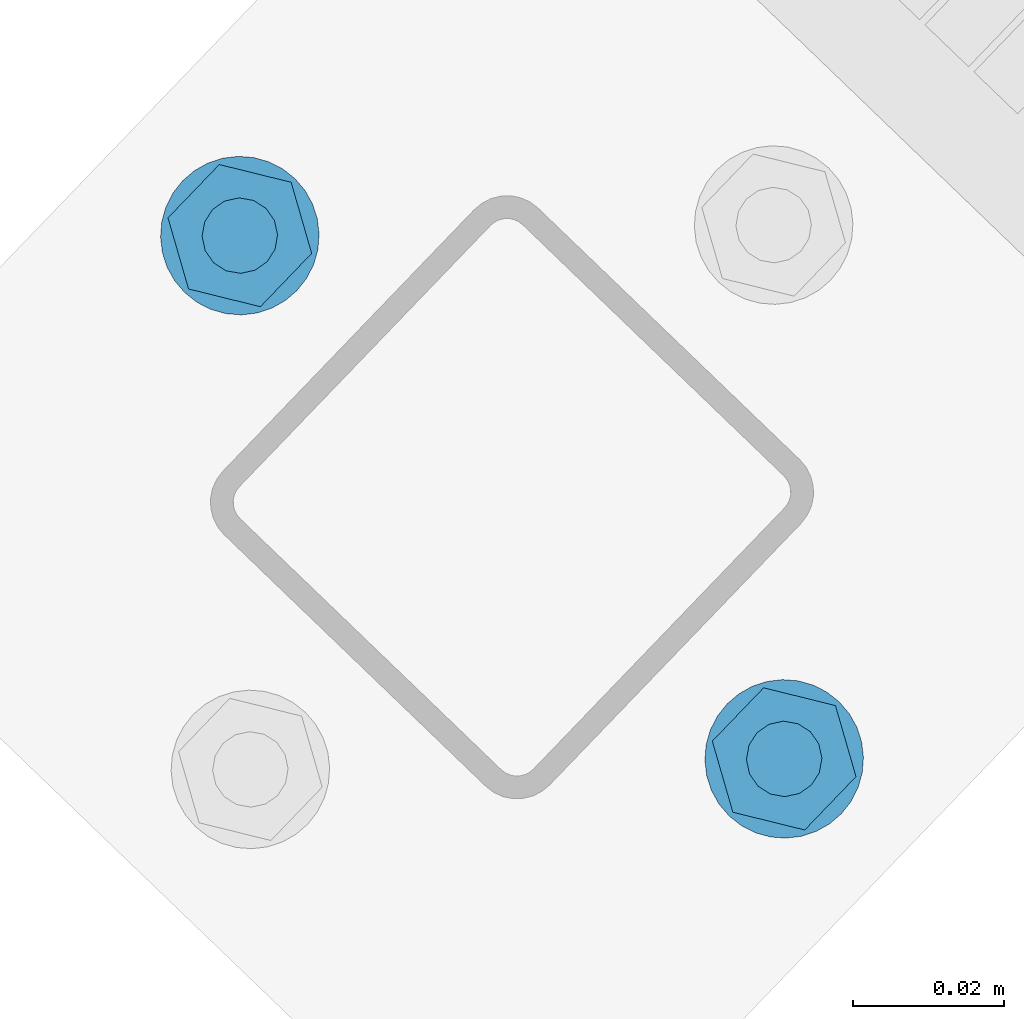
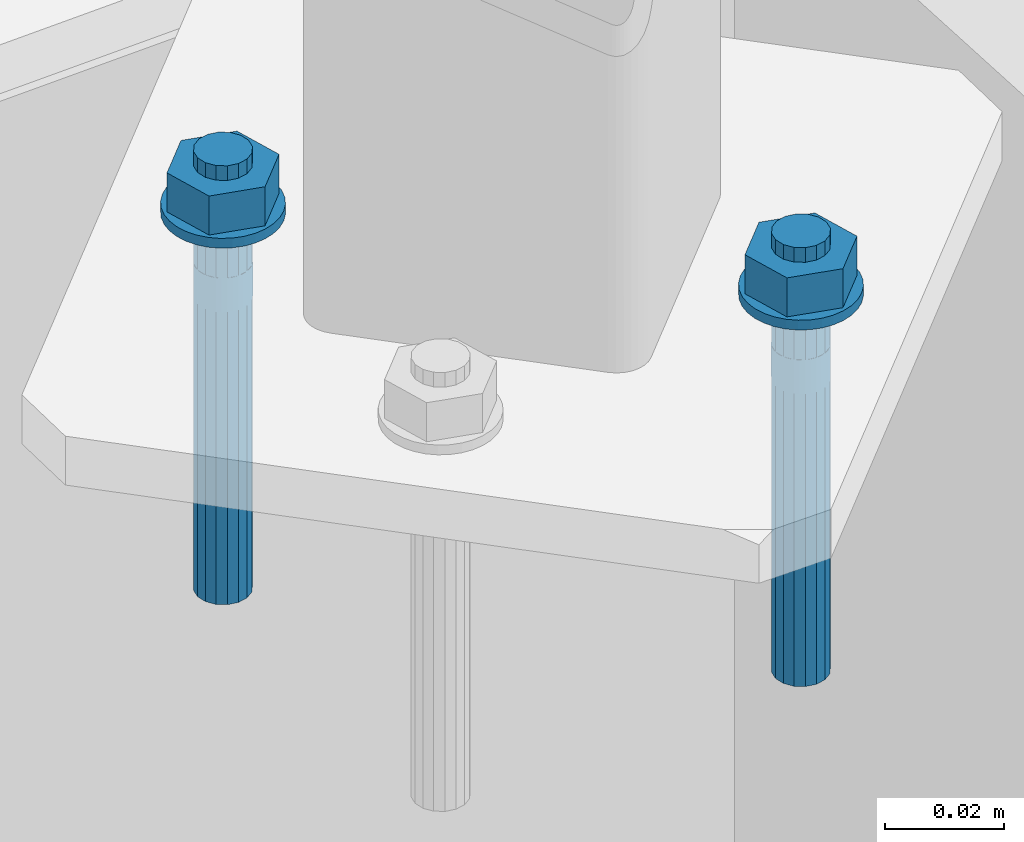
# One storey, part 189 of 288: 2 mechanical fasteners.
"""IFC2X3 building model written with IfcOpenShell, lengths in millimetres."""

from ifc_helpers import new_model, entity, si_unit, converted_unit, origin_with_axes, place, context, project, spatial, faceted_brep, element, save


model = new_model("IFC2X3")

# Units and contexts
model_context = context("Model", 3, precision=1e-09, world=origin_with_axes())
ifc_project = project(units=[si_unit("LENGTHUNIT", "METRE", prefix="MILLI"), si_unit("AREAUNIT", "SQUARE_METRE"), si_unit("VOLUMEUNIT", "CUBIC_METRE"), converted_unit("PLANEANGLEUNIT", "DEGREE", entity("IfcPlaneAngleMeasure", 0.01745329), si_unit("PLANEANGLEUNIT", "RADIAN"), dimensions=[0, 0, 0, 0, 0, 0, 0])], contexts=[model_context])

# Site, building, storey
site_placement = place(None, origin_with_axes())
site = spatial("IfcSite", under=ifc_project, at=site_placement, Name="Remont ?wietlik?w nad MC w NCPP w Opolu", CompositionType="ELEMENT")
building_placement = place(site_placement, origin_with_axes())
building = spatial("IfcBuilding", under=site, at=building_placement, Name="Konstrukcja 1", CompositionType="ELEMENT")
storey_placement = place(building_placement, origin_with_axes())
storey = spatial("IfcBuildingStorey", under=building, at=storey_placement, Name="Default Storey", CompositionType="ELEMENT", Elevation=0.0)

# Mechanical fasteners
mechanical_fastener_1_placement = place(None, origin_with_axes())
element("IfcMechanicalFastener", 1, at=mechanical_fastener_1_placement, inside=storey, ObjectType="Anchor_Bolt", NominalDiameter=10.0, NominalLength=90.0, context=model_context, shape_type="Brep", body=[
    faceted_brep([(-79.531488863, -139.726748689, 22.001000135), (-79.531488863, -139.726748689, 20.001000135), (-80.805663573, -141.343326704, 20.001000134), (-80.805663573, -141.343326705, 22.001000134), (-81.739976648, -143.177421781, 20.001000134), (-81.739976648, -143.177421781, 22.001000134), (-82.29852296, -145.158550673, 20.001000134), (-82.29852296, -145.158550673, 22.001000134), (-82.459837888, -147.210579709, 20.001000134), (-82.459837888, -147.210579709, 22.001000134), (-82.217722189, -149.254650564, 20.001000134), (-82.217722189, -149.254650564, 22.001000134), (-81.581480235, -151.212210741, 20.001000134), (-81.581480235, -151.212210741, 22.001000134), (-80.575562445, -153.0080323, 20.001000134), (-80.575562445, -153.0080323, 22.001000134), (-79.238625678, -154.573102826, 20.001000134), (-79.238625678, -154.573102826, 22.001000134), (-77.622047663, -155.847277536, 20.001000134), (-77.622047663, -155.847277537, 22.001000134), (-75.787952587, -156.781590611, 20.001000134), (-75.787952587, -156.781590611, 22.001000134), (-73.806823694, -157.340136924, 20.001000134), (-73.806823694, -157.340136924, 22.001000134), (-71.754794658, -157.501451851, 20.001000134), (-71.754794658, -157.501451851, 22.001000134), (-69.710723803, -157.259336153, 20.001000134), (-69.710723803, -157.259336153, 22.001000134), (-67.753163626, -156.623094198, 20.001000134), (-67.753163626, -156.623094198, 22.001000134), (-65.957342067, -155.617176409, 20.001000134), (-65.957342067, -155.617176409, 22.001000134), (-64.392271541, -154.280239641, 20.001000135), (-64.392271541, -154.280239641, 22.001000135), (-63.118096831, -152.663661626, 20.001000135), (-63.118096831, -152.663661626, 22.001000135), (-62.183783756, -150.82956655, 20.001000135), (-62.183783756, -150.82956655, 22.001000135), (-61.625237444, -148.848437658, 20.001000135), (-61.625237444, -148.848437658, 22.001000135), (-61.463922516, -146.796408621, 20.001000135), (-61.463922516, -146.796408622, 22.001000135), (-61.706038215, -144.752337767, 20.001000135), (-61.706038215, -144.752337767, 22.001000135), (-62.342280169, -142.79477759, 20.001000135), (-62.34228017, -142.79477759, 22.001000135), (-63.348197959, -140.998956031, 20.001000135), (-63.348197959, -140.998956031, 22.001000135), (-64.685134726, -139.433885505, 20.001000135), (-64.685134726, -139.433885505, 22.001000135), (-66.301712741, -138.159710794, 20.001000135), (-66.301712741, -138.159710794, 22.001000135), (-68.135807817, -137.225397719, 20.001000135), (-68.135807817, -137.225397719, 22.001000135), (-70.11693671, -136.666851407, 20.001000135), (-70.11693671, -136.666851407, 22.001000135), (-72.168965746, -136.505536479, 20.001000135), (-72.168965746, -136.505536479, 22.001000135), (-74.213036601, -136.747652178, 20.001000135), (-74.213036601, -136.747652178, 22.001000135), (-76.170596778, -137.383894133, 20.001000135), (-76.170596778, -137.383894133, 22.001000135), (-77.966418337, -138.389811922, 20.001000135), (-77.966418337, -138.389811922, 22.001000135)], [[[0, 1, 2, 3]], [[3, 2, 4, 5]], [[5, 4, 6, 7]], [[7, 6, 8, 9]], [[9, 8, 10, 11]], [[11, 10, 12, 13]], [[13, 12, 14, 15]], [[15, 14, 16, 17]], [[17, 16, 18, 19]], [[19, 18, 20, 21]], [[21, 20, 22, 23]], [[23, 22, 24, 25]], [[25, 24, 26, 27]], [[27, 26, 28, 29]], [[29, 28, 30, 31]], [[31, 30, 32, 33]], [[33, 32, 34, 35]], [[35, 34, 36, 37]], [[37, 36, 38, 39]], [[39, 38, 40, 41]], [[41, 40, 42, 43]], [[43, 42, 44, 45]], [[45, 44, 46, 47]], [[47, 46, 48, 49]], [[49, 48, 50, 51]], [[51, 50, 52, 53]], [[53, 52, 54, 55]], [[55, 54, 56, 57]], [[57, 56, 58, 59]], [[59, 58, 60, 61]], [[61, 60, 62, 63]], [[63, 62, 1, 0]], [[0, 3, 5, 7, 9, 11, 13, 15, 17, 19, 21, 23, 25, 27, 29, 31, 33, 35, 37, 39, 41, 43, 45, 47, 49, 51, 53, 55, 57, 59, 61, 63]], [[1, 62, 60, 58, 56, 54, 52, 50, 48, 46, 44, 42, 40, 38, 36, 34, 32, 30, 28, 26, 24, 22, 20, 18, 16, 14, 12, 10, 8, 6, 4, 2]]]),
    faceted_brep([(-69.23925292, -156.41770155, 22.001000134), (-69.239252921, -156.417701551, 30.001000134), (-78.753509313, -154.068462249, 30.001000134), (-78.753509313, -154.068462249, 22.001000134), (-81.476136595, -144.654254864, 30.001000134), (-81.476136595, -144.654254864, 22.001000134), (-74.684507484, -137.589286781, 30.001000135), (-74.684507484, -137.589286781, 22.001000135), (-65.170251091, -139.938526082, 30.001000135), (-65.170251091, -139.938526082, 22.001000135), (-62.44762381, -149.352733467, 30.001000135), (-62.447623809, -149.352733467, 22.001000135)], [[[0, 1, 2, 3]], [[3, 2, 4, 5]], [[5, 4, 6, 7]], [[7, 6, 8, 9]], [[9, 8, 10, 11]], [[11, 10, 1, 0]], [[4, 2, 1, 10, 8, 6]], [[0, 3, 5, 7, 9, 11]]]),
    faceted_brep([(-75.566455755, -143.538377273, 33.001000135), (-75.566455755, -143.538377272, 30.001000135), (-76.618116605, -145.181554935, 30.001000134), (-76.618116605, -145.181554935, 33.001000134), (-76.960907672, -147.10210633, 30.001000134), (-76.960907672, -147.10210633, 33.001000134), (-76.542642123, -149.007644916, 30.001000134), (-76.542642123, -149.007644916, 33.001000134), (-75.426997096, -150.608069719, 30.001000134), (-75.426997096, -150.608069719, 33.001000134), (-73.783819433, -151.659730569, 30.001000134), (-73.783819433, -151.659730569, 33.001000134), (-71.863268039, -152.002521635, 30.001000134), (-71.863268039, -152.002521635, 33.001000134), (-69.957729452, -151.584256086, 30.001000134), (-69.957729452, -151.584256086, 33.001000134), (-68.35730465, -150.468611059, 30.001000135), (-68.35730465, -150.468611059, 33.001000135), (-67.3056438, -148.825433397, 30.001000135), (-67.3056438, -148.825433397, 33.001000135), (-66.962852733, -146.904882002, 30.001000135), (-66.962852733, -146.904882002, 33.001000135), (-67.381118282, -144.999343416, 30.001000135), (-67.381118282, -144.999343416, 33.001000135), (-68.496763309, -143.398918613, 30.001000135), (-68.496763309, -143.398918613, 33.001000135), (-70.139940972, -142.347257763, 30.001000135), (-70.139940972, -142.347257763, 33.001000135), (-72.060492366, -142.004466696, 30.001000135), (-72.060492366, -142.004466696, 33.001000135), (-73.966030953, -142.422732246, 30.001000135), (-73.966030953, -142.422732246, 33.001000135)], [[[0, 1, 2, 3]], [[3, 2, 4, 5]], [[5, 4, 6, 7]], [[7, 6, 8, 9]], [[9, 8, 10, 11]], [[11, 10, 12, 13]], [[13, 12, 14, 15]], [[15, 14, 16, 17]], [[17, 16, 18, 19]], [[19, 18, 20, 21]], [[21, 20, 22, 23]], [[23, 22, 24, 25]], [[25, 24, 26, 27]], [[27, 26, 28, 29]], [[29, 28, 30, 31]], [[31, 30, 1, 0]], [[0, 3, 5, 7, 9, 11, 13, 15, 17, 19, 21, 23, 25, 27, 29, 31]], [[1, 30, 28, 26, 24, 22, 20, 18, 16, 14, 12, 10, 8, 6, 4, 2]]]),
    faceted_brep([(-75.566455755, -143.538377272, 20.00100039), (-75.566455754, -143.538377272, 10.001000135), (-76.618116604, -145.181554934, 10.001000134), (-76.618116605, -145.181554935, 20.00100039), (-76.960907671, -147.102106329, 10.001000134), (-76.960907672, -147.102106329, 20.00100039), (-76.542642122, -149.007644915, 10.001000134), (-76.542642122, -149.007644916, 20.00100039), (-75.426997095, -150.608069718, 10.001000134), (-75.426997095, -150.608069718, 20.00100039), (-73.783819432, -151.659730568, 10.001000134), (-73.783819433, -151.659730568, 20.00100039), (-71.863268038, -152.002521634, 10.001000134), (-71.863268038, -152.002521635, 20.00100039), (-69.957729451, -151.584256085, 10.001000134), (-69.957729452, -151.584256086, 20.00100039), (-68.357304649, -150.468611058, 10.001000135), (-68.357304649, -150.468611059, 20.00100039), (-67.305643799, -148.825433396, 10.001000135), (-67.305643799, -148.825433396, 20.00100039), (-66.962852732, -146.904882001, 10.001000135), (-66.962852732, -146.904882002, 20.001000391), (-67.381118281, -144.999343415, 10.001000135), (-67.381118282, -144.999343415, 20.001000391), (-68.496763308, -143.398918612, 10.001000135), (-68.496763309, -143.398918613, 20.001000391), (-70.139940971, -142.347257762, 10.001000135), (-70.139940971, -142.347257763, 20.001000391), (-72.060492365, -142.004466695, 10.001000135), (-72.060492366, -142.004466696, 20.001000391), (-73.966030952, -142.422732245, 10.001000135), (-73.966030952, -142.422732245, 20.00100039)], [[[0, 1, 2, 3]], [[3, 2, 4, 5]], [[5, 4, 6, 7]], [[7, 6, 8, 9]], [[9, 8, 10, 11]], [[11, 10, 12, 13]], [[13, 12, 14, 15]], [[15, 14, 16, 17]], [[17, 16, 18, 19]], [[19, 18, 20, 21]], [[21, 20, 22, 23]], [[23, 22, 24, 25]], [[25, 24, 26, 27]], [[27, 26, 28, 29]], [[29, 28, 30, 31]], [[31, 30, 1, 0]], [[0, 3, 5, 7, 9, 11, 13, 15, 17, 19, 21, 23, 25, 27, 29, 31]], [[1, 30, 28, 26, 24, 22, 20, 18, 16, 14, 12, 10, 8, 6, 4, 2]]]),
    faceted_brep([(-75.566455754, -143.538377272, 10.000999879), (-75.566455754, -143.538377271, 3.001000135), (-76.173205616, -144.308176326, 3.001000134), (-76.173205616, -144.308176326, 10.000999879), (-76.618116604, -145.181554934, 3.001000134), (-76.618116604, -145.181554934, 10.000999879), (-76.884091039, -146.124949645, 3.001000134), (-76.884091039, -146.124949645, 10.000999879), (-76.960907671, -147.102106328, 3.001000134), (-76.960907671, -147.102106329, 10.000999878), (-76.845614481, -148.075473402, 3.001000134), (-76.845614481, -148.075473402, 10.000999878), (-76.542642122, -149.007644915, 3.001000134), (-76.542642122, -149.007644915, 10.000999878), (-76.06363365, -149.862798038, 3.001000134), (-76.063633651, -149.862798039, 10.000999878), (-75.426997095, -150.608069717, 3.001000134), (-75.426997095, -150.608069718, 10.000999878), (-74.65719804, -151.214819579, 3.001000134), (-74.65719804, -151.21481958, 10.000999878), (-73.783819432, -151.659730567, 3.001000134), (-73.783819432, -151.659730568, 10.000999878), (-72.840424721, -151.925705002, 3.001000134), (-72.840424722, -151.925705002, 10.000999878), (-71.863268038, -152.002521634, 3.001000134), (-71.863268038, -152.002521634, 10.000999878), (-70.889900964, -151.887228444, 3.001000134), (-70.889900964, -151.887228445, 10.000999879), (-69.957729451, -151.584256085, 3.001000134), (-69.957729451, -151.584256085, 10.000999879), (-69.102576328, -151.105247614, 3.001000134), (-69.102576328, -151.105247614, 10.000999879), (-68.357304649, -150.468611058, 3.001000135), (-68.357304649, -150.468611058, 10.000999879), (-67.750554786, -149.698812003, 3.001000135), (-67.750554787, -149.698812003, 10.000999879), (-67.305643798, -148.825433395, 3.001000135), (-67.305643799, -148.825433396, 10.000999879), (-67.039669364, -147.882038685, 3.001000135), (-67.039669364, -147.882038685, 10.000999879), (-66.962852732, -146.904882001, 3.001000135), (-66.962852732, -146.904882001, 10.000999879), (-67.078145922, -145.931514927, 3.001000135), (-67.078145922, -145.931514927, 10.000999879), (-67.381118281, -144.999343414, 3.001000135), (-67.381118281, -144.999343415, 10.000999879), (-67.860126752, -144.144190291, 3.001000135), (-67.860126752, -144.144190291, 10.000999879), (-68.496763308, -143.398918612, 3.001000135), (-68.496763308, -143.398918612, 10.000999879), (-69.266562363, -142.79216875, 3.001000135), (-69.266562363, -142.79216875, 10.000999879), (-70.139940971, -142.347257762, 3.001000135), (-70.139940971, -142.347257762, 10.000999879), (-71.083335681, -142.081283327, 3.001000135), (-71.083335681, -142.081283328, 10.000999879), (-72.060492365, -142.004466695, 3.001000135), (-72.060492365, -142.004466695, 10.000999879), (-73.033859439, -142.119759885, 3.001000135), (-73.033859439, -142.119759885, 10.000999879), (-73.966030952, -142.422732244, 3.001000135), (-73.966030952, -142.422732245, 10.000999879), (-74.821184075, -142.901740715, 3.001000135), (-74.821184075, -142.901740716, 10.000999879)], [[[0, 1, 2, 3]], [[3, 2, 4, 5]], [[5, 4, 6, 7]], [[7, 6, 8, 9]], [[9, 8, 10, 11]], [[11, 10, 12, 13]], [[13, 12, 14, 15]], [[15, 14, 16, 17]], [[17, 16, 18, 19]], [[19, 18, 20, 21]], [[21, 20, 22, 23]], [[23, 22, 24, 25]], [[25, 24, 26, 27]], [[27, 26, 28, 29]], [[29, 28, 30, 31]], [[31, 30, 32, 33]], [[33, 32, 34, 35]], [[35, 34, 36, 37]], [[37, 36, 38, 39]], [[39, 38, 40, 41]], [[41, 40, 42, 43]], [[43, 42, 44, 45]], [[45, 44, 46, 47]], [[47, 46, 48, 49]], [[49, 48, 50, 51]], [[51, 50, 52, 53]], [[53, 52, 54, 55]], [[55, 54, 56, 57]], [[57, 56, 58, 59]], [[59, 58, 60, 61]], [[61, 60, 62, 63]], [[63, 62, 1, 0]], [[0, 3, 5, 7, 9, 11, 13, 15, 17, 19, 21, 23, 25, 27, 29, 31, 33, 35, 37, 39, 41, 43, 45, 47, 49, 51, 53, 55, 57, 59, 61, 63]], [[1, 62, 60, 58, 56, 54, 52, 50, 48, 46, 44, 42, 40, 38, 36, 34, 32, 30, 28, 26, 24, 22, 20, 18, 16, 14, 12, 10, 8, 6, 4, 2]]]),
    faceted_brep([(-75.566455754, -143.538377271, 3.001000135), (-75.566455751, -143.538377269, -56.998999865), (-76.618116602, -145.181554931, -56.998999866), (-76.618116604, -145.181554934, 3.001000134), (-76.960907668, -147.102106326, -56.998999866), (-76.960907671, -147.102106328, 3.001000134), (-76.542642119, -149.007644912, -56.998999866), (-76.542642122, -149.007644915, 3.001000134), (-75.426997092, -150.608069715, -56.998999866), (-75.426997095, -150.608069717, 3.001000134), (-73.783819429, -151.659730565, -56.998999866), (-73.783819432, -151.659730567, 3.001000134), (-71.863268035, -152.002521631, -56.998999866), (-71.863268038, -152.002521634, 3.001000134), (-69.957729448, -151.584256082, -56.998999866), (-69.957729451, -151.584256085, 3.001000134), (-68.357304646, -150.468611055, -56.998999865), (-68.357304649, -150.468611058, 3.001000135), (-67.305643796, -148.825433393, -56.998999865), (-67.305643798, -148.825433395, 3.001000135), (-66.962852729, -146.904881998, -56.998999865), (-66.962852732, -146.904882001, 3.001000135), (-67.381118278, -144.999343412, -56.998999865), (-67.381118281, -144.999343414, 3.001000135), (-68.496763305, -143.398918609, -56.998999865), (-68.496763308, -143.398918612, 3.001000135), (-70.139940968, -142.347257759, -56.998999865), (-70.139940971, -142.347257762, 3.001000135), (-72.060492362, -142.004466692, -56.998999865), (-72.060492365, -142.004466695, 3.001000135), (-73.966030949, -142.422732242, -56.998999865), (-73.966030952, -142.422732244, 3.001000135)], [[[0, 1, 2, 3]], [[3, 2, 4, 5]], [[5, 4, 6, 7]], [[7, 6, 8, 9]], [[9, 8, 10, 11]], [[11, 10, 12, 13]], [[13, 12, 14, 15]], [[15, 14, 16, 17]], [[17, 16, 18, 19]], [[19, 18, 20, 21]], [[21, 20, 22, 23]], [[23, 22, 24, 25]], [[25, 24, 26, 27]], [[27, 26, 28, 29]], [[29, 28, 30, 31]], [[31, 30, 1, 0]], [[0, 3, 5, 7, 9, 11, 13, 15, 17, 19, 21, 23, 25, 27, 29, 31]], [[1, 30, 28, 26, 24, 22, 20, 18, 16, 14, 12, 10, 8, 6, 4, 2]]]),
])
mechanical_fastener_2_placement = place(None, origin_with_axes())
element("IfcMechanicalFastener", 2, at=mechanical_fastener_2_placement, inside=storey, ObjectType="Anchor_Bolt", NominalDiameter=10.0, NominalLength=90.0, context=model_context, shape_type="Brep", body=[
    faceted_brep([(-151.622999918, -70.424410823, 22.001000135), (-151.622999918, -70.424410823, 20.001000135), (-152.897174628, -72.040988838, 20.001000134), (-152.897174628, -72.040988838, 22.001000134), (-153.831487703, -73.875083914, 20.001000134), (-153.831487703, -73.875083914, 22.001000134), (-154.390034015, -75.856212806, 20.001000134), (-154.390034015, -75.856212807, 22.001000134), (-154.551348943, -77.908241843, 20.001000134), (-154.551348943, -77.908241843, 22.001000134), (-154.309233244, -79.952312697, 20.001000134), (-154.309233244, -79.952312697, 22.001000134), (-153.67299129, -81.909872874, 20.001000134), (-153.67299129, -81.909872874, 22.001000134), (-152.6670735, -83.705694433, 20.001000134), (-152.6670735, -83.705694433, 22.001000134), (-151.330136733, -85.270764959, 20.001000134), (-151.330136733, -85.27076496, 22.001000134), (-149.713558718, -86.54493967, 20.001000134), (-149.713558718, -86.54493967, 22.001000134), (-147.879463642, -87.479252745, 20.001000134), (-147.879463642, -87.479252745, 22.001000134), (-145.898334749, -88.037799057, 20.001000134), (-145.898334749, -88.037799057, 22.001000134), (-143.846305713, -88.199113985, 20.001000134), (-143.846305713, -88.199113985, 22.001000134), (-141.802234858, -87.956998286, 20.001000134), (-141.802234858, -87.956998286, 22.001000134), (-139.844674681, -87.320756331, 20.001000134), (-139.844674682, -87.320756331, 22.001000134), (-138.048853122, -86.314838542, 20.001000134), (-138.048853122, -86.314838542, 22.001000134), (-136.483782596, -84.977901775, 20.001000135), (-136.483782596, -84.977901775, 22.001000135), (-135.209607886, -83.36132376, 20.001000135), (-135.209607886, -83.36132376, 22.001000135), (-134.275294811, -81.527228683, 20.001000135), (-134.275294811, -81.527228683, 22.001000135), (-133.716748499, -79.546099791, 20.001000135), (-133.716748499, -79.546099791, 22.001000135), (-133.555433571, -77.494070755, 20.001000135), (-133.555433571, -77.494070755, 22.001000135), (-133.79754927, -75.4499999, 20.001000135), (-133.79754927, -75.4499999, 22.001000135), (-134.433791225, -73.492439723, 20.001000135), (-134.433791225, -73.492439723, 22.001000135), (-135.439709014, -71.696618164, 20.001000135), (-135.439709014, -71.696618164, 22.001000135), (-136.776645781, -70.131547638, 20.001000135), (-136.776645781, -70.131547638, 22.001000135), (-138.393223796, -68.857372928, 20.001000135), (-138.393223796, -68.857372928, 22.001000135), (-140.227318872, -67.923059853, 20.001000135), (-140.227318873, -67.923059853, 22.001000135), (-142.208447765, -67.36451354, 20.001000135), (-142.208447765, -67.364513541, 22.001000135), (-144.260476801, -67.203198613, 20.001000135), (-144.260476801, -67.203198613, 22.001000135), (-146.304547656, -67.445314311, 20.001000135), (-146.304547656, -67.445314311, 22.001000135), (-148.262107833, -68.081556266, 20.001000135), (-148.262107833, -68.081556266, 22.001000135), (-150.057929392, -69.087474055, 20.001000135), (-150.057929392, -69.087474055, 22.001000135)], [[[0, 1, 2, 3]], [[3, 2, 4, 5]], [[5, 4, 6, 7]], [[7, 6, 8, 9]], [[9, 8, 10, 11]], [[11, 10, 12, 13]], [[13, 12, 14, 15]], [[15, 14, 16, 17]], [[17, 16, 18, 19]], [[19, 18, 20, 21]], [[21, 20, 22, 23]], [[23, 22, 24, 25]], [[25, 24, 26, 27]], [[27, 26, 28, 29]], [[29, 28, 30, 31]], [[31, 30, 32, 33]], [[33, 32, 34, 35]], [[35, 34, 36, 37]], [[37, 36, 38, 39]], [[39, 38, 40, 41]], [[41, 40, 42, 43]], [[43, 42, 44, 45]], [[45, 44, 46, 47]], [[47, 46, 48, 49]], [[49, 48, 50, 51]], [[51, 50, 52, 53]], [[53, 52, 54, 55]], [[55, 54, 56, 57]], [[57, 56, 58, 59]], [[59, 58, 60, 61]], [[61, 60, 62, 63]], [[63, 62, 1, 0]], [[0, 3, 5, 7, 9, 11, 13, 15, 17, 19, 21, 23, 25, 27, 29, 31, 33, 35, 37, 39, 41, 43, 45, 47, 49, 51, 53, 55, 57, 59, 61, 63]], [[1, 62, 60, 58, 56, 54, 52, 50, 48, 46, 44, 42, 40, 38, 36, 34, 32, 30, 28, 26, 24, 22, 20, 18, 16, 14, 12, 10, 8, 6, 4, 2]]]),
    faceted_brep([(-141.330763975, -87.115363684, 22.001000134), (-141.330763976, -87.115363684, 30.001000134), (-150.845020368, -84.766124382, 30.001000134), (-150.845020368, -84.766124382, 22.001000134), (-153.56764765, -75.351916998, 30.001000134), (-153.56764765, -75.351916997, 22.001000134), (-146.776018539, -68.286948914, 30.001000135), (-146.776018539, -68.286948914, 22.001000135), (-137.261762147, -70.636188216, 30.001000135), (-137.261762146, -70.636188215, 22.001000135), (-134.539134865, -80.050395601, 30.001000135), (-134.539134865, -80.0503956, 22.001000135)], [[[0, 1, 2, 3]], [[3, 2, 4, 5]], [[5, 4, 6, 7]], [[7, 6, 8, 9]], [[9, 8, 10, 11]], [[11, 10, 1, 0]], [[4, 2, 1, 10, 8, 6]], [[0, 3, 5, 7, 9, 11]]]),
    faceted_brep([(-147.65796681, -74.236039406, 33.001000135), (-147.65796681, -74.236039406, 30.001000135), (-148.70962766, -75.879217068, 30.001000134), (-148.709627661, -75.879217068, 33.001000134), (-149.052418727, -77.799768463, 30.001000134), (-149.052418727, -77.799768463, 33.001000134), (-148.634153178, -79.705307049, 30.001000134), (-148.634153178, -79.70530705, 33.001000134), (-147.518508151, -81.305731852, 30.001000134), (-147.518508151, -81.305731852, 33.001000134), (-145.875330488, -82.357392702, 30.001000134), (-145.875330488, -82.357392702, 33.001000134), (-143.954779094, -82.700183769, 30.001000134), (-143.954779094, -82.700183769, 33.001000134), (-142.049240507, -82.281918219, 30.001000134), (-142.049240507, -82.281918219, 33.001000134), (-140.448815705, -81.166273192, 30.001000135), (-140.448815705, -81.166273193, 33.001000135), (-139.397154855, -79.52309553, 30.001000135), (-139.397154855, -79.52309553, 33.001000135), (-139.054363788, -77.602544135, 30.001000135), (-139.054363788, -77.602544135, 33.001000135), (-139.472629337, -75.697005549, 30.001000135), (-139.472629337, -75.697005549, 33.001000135), (-140.588274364, -74.096580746, 30.001000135), (-140.588274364, -74.096580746, 33.001000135), (-142.231452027, -73.044919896, 30.001000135), (-142.231452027, -73.044919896, 33.001000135), (-144.152003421, -72.70212883, 30.001000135), (-144.152003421, -72.70212883, 33.001000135), (-146.057542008, -73.120394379, 30.001000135), (-146.057542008, -73.120394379, 33.001000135)], [[[0, 1, 2, 3]], [[3, 2, 4, 5]], [[5, 4, 6, 7]], [[7, 6, 8, 9]], [[9, 8, 10, 11]], [[11, 10, 12, 13]], [[13, 12, 14, 15]], [[15, 14, 16, 17]], [[17, 16, 18, 19]], [[19, 18, 20, 21]], [[21, 20, 22, 23]], [[23, 22, 24, 25]], [[25, 24, 26, 27]], [[27, 26, 28, 29]], [[29, 28, 30, 31]], [[31, 30, 1, 0]], [[0, 3, 5, 7, 9, 11, 13, 15, 17, 19, 21, 23, 25, 27, 29, 31]], [[1, 30, 28, 26, 24, 22, 20, 18, 16, 14, 12, 10, 8, 6, 4, 2]]]),
    faceted_brep([(-147.65796681, -74.236039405, 20.00100039), (-147.657966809, -74.236039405, 10.001000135), (-148.70962766, -75.879217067, 10.001000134), (-148.70962766, -75.879217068, 20.00100039), (-149.052418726, -77.799768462, 10.001000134), (-149.052418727, -77.799768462, 20.00100039), (-148.634153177, -79.705307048, 10.001000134), (-148.634153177, -79.705307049, 20.00100039), (-147.51850815, -81.305731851, 10.001000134), (-147.51850815, -81.305731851, 20.00100039), (-145.875330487, -82.357392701, 10.001000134), (-145.875330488, -82.357392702, 20.00100039), (-143.954779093, -82.700183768, 10.001000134), (-143.954779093, -82.700183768, 20.00100039), (-142.049240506, -82.281918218, 10.001000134), (-142.049240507, -82.281918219, 20.00100039), (-140.448815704, -81.166273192, 10.001000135), (-140.448815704, -81.166273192, 20.00100039), (-139.397154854, -79.523095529, 10.001000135), (-139.397154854, -79.523095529, 20.00100039), (-139.054363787, -77.602544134, 10.001000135), (-139.054363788, -77.602544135, 20.001000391), (-139.472629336, -75.697005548, 10.001000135), (-139.472629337, -75.697005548, 20.001000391), (-140.588274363, -74.096580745, 10.001000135), (-140.588274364, -74.096580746, 20.001000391), (-142.231452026, -73.044919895, 10.001000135), (-142.231452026, -73.044919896, 20.001000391), (-144.15200342, -72.702128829, 10.001000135), (-144.152003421, -72.702128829, 20.001000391), (-146.057542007, -73.120394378, 10.001000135), (-146.057542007, -73.120394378, 20.00100039)], [[[0, 1, 2, 3]], [[3, 2, 4, 5]], [[5, 4, 6, 7]], [[7, 6, 8, 9]], [[9, 8, 10, 11]], [[11, 10, 12, 13]], [[13, 12, 14, 15]], [[15, 14, 16, 17]], [[17, 16, 18, 19]], [[19, 18, 20, 21]], [[21, 20, 22, 23]], [[23, 22, 24, 25]], [[25, 24, 26, 27]], [[27, 26, 28, 29]], [[29, 28, 30, 31]], [[31, 30, 1, 0]], [[0, 3, 5, 7, 9, 11, 13, 15, 17, 19, 21, 23, 25, 27, 29, 31]], [[1, 30, 28, 26, 24, 22, 20, 18, 16, 14, 12, 10, 8, 6, 4, 2]]]),
    faceted_brep([(-147.657966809, -74.236039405, 10.000999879), (-147.657966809, -74.236039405, 3.001000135), (-148.264716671, -75.005838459, 3.001000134), (-148.264716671, -75.00583846, 10.000999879), (-148.709627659, -75.879217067, 3.001000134), (-148.70962766, -75.879217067, 10.000999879), (-148.975602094, -76.822611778, 3.001000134), (-148.975602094, -76.822611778, 10.000999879), (-149.052418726, -77.799768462, 3.001000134), (-149.052418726, -77.799768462, 10.000999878), (-148.937125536, -78.773135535, 3.001000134), (-148.937125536, -78.773135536, 10.000999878), (-148.634153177, -79.705307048, 3.001000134), (-148.634153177, -79.705307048, 10.000999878), (-148.155144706, -80.560460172, 3.001000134), (-148.155144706, -80.560460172, 10.000999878), (-147.51850815, -81.305731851, 3.001000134), (-147.51850815, -81.305731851, 10.000999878), (-146.748709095, -81.912481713, 3.001000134), (-146.748709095, -81.912481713, 10.000999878), (-145.875330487, -82.357392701, 3.001000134), (-145.875330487, -82.357392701, 10.000999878), (-144.931935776, -82.623367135, 3.001000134), (-144.931935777, -82.623367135, 10.000999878), (-143.954779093, -82.700183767, 3.001000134), (-143.954779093, -82.700183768, 10.000999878), (-142.981412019, -82.584890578, 3.001000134), (-142.981412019, -82.584890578, 10.000999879), (-142.049240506, -82.281918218, 3.001000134), (-142.049240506, -82.281918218, 10.000999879), (-141.194087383, -81.802909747, 3.001000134), (-141.194087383, -81.802909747, 10.000999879), (-140.448815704, -81.166273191, 3.001000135), (-140.448815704, -81.166273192, 10.000999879), (-139.842065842, -80.396474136, 3.001000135), (-139.842065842, -80.396474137, 10.000999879), (-139.397154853, -79.523095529, 3.001000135), (-139.397154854, -79.523095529, 10.000999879), (-139.131180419, -78.579700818, 3.001000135), (-139.131180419, -78.579700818, 10.000999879), (-139.054363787, -77.602544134, 3.001000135), (-139.054363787, -77.602544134, 10.000999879), (-139.169656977, -76.62917706, 3.001000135), (-139.169656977, -76.629177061, 10.000999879), (-139.472629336, -75.697005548, 3.001000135), (-139.472629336, -75.697005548, 10.000999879), (-139.951637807, -74.841852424, 3.001000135), (-139.951637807, -74.841852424, 10.000999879), (-140.588274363, -74.096580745, 3.001000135), (-140.588274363, -74.096580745, 10.000999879), (-141.358073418, -73.489830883, 3.001000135), (-141.358073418, -73.489830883, 10.000999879), (-142.231452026, -73.044919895, 3.001000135), (-142.231452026, -73.044919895, 10.000999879), (-143.174846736, -72.778945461, 3.001000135), (-143.174846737, -72.778945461, 10.000999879), (-144.15200342, -72.702128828, 3.001000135), (-144.15200342, -72.702128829, 10.000999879), (-145.125370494, -72.817422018, 3.001000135), (-145.125370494, -72.817422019, 10.000999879), (-146.057542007, -73.120394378, 3.001000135), (-146.057542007, -73.120394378, 10.000999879), (-146.91269513, -73.599402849, 3.001000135), (-146.91269513, -73.599402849, 10.000999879)], [[[0, 1, 2, 3]], [[3, 2, 4, 5]], [[5, 4, 6, 7]], [[7, 6, 8, 9]], [[9, 8, 10, 11]], [[11, 10, 12, 13]], [[13, 12, 14, 15]], [[15, 14, 16, 17]], [[17, 16, 18, 19]], [[19, 18, 20, 21]], [[21, 20, 22, 23]], [[23, 22, 24, 25]], [[25, 24, 26, 27]], [[27, 26, 28, 29]], [[29, 28, 30, 31]], [[31, 30, 32, 33]], [[33, 32, 34, 35]], [[35, 34, 36, 37]], [[37, 36, 38, 39]], [[39, 38, 40, 41]], [[41, 40, 42, 43]], [[43, 42, 44, 45]], [[45, 44, 46, 47]], [[47, 46, 48, 49]], [[49, 48, 50, 51]], [[51, 50, 52, 53]], [[53, 52, 54, 55]], [[55, 54, 56, 57]], [[57, 56, 58, 59]], [[59, 58, 60, 61]], [[61, 60, 62, 63]], [[63, 62, 1, 0]], [[0, 3, 5, 7, 9, 11, 13, 15, 17, 19, 21, 23, 25, 27, 29, 31, 33, 35, 37, 39, 41, 43, 45, 47, 49, 51, 53, 55, 57, 59, 61, 63]], [[1, 62, 60, 58, 56, 54, 52, 50, 48, 46, 44, 42, 40, 38, 36, 34, 32, 30, 28, 26, 24, 22, 20, 18, 16, 14, 12, 10, 8, 6, 4, 2]]]),
    faceted_brep([(-147.657966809, -74.236039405, 3.001000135), (-147.657966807, -74.236039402, -56.998999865), (-148.709627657, -75.879217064, -56.998999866), (-148.709627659, -75.879217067, 3.001000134), (-149.052418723, -77.799768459, -56.998999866), (-149.052418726, -77.799768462, 3.001000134), (-148.634153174, -79.705307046, -56.998999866), (-148.634153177, -79.705307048, 3.001000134), (-147.518508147, -81.305731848, -56.998999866), (-147.51850815, -81.305731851, 3.001000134), (-145.875330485, -82.357392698, -56.998999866), (-145.875330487, -82.357392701, 3.001000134), (-143.95477909, -82.700183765, -56.998999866), (-143.954779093, -82.700183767, 3.001000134), (-142.049240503, -82.281918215, -56.998999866), (-142.049240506, -82.281918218, 3.001000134), (-140.448815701, -81.166273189, -56.998999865), (-140.448815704, -81.166273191, 3.001000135), (-139.397154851, -79.523095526, -56.998999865), (-139.397154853, -79.523095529, 3.001000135), (-139.054363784, -77.602544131, -56.998999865), (-139.054363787, -77.602544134, 3.001000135), (-139.472629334, -75.697005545, -56.998999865), (-139.472629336, -75.697005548, 3.001000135), (-140.58827436, -74.096580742, -56.998999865), (-140.588274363, -74.096580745, 3.001000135), (-142.231452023, -73.044919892, -56.998999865), (-142.231452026, -73.044919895, 3.001000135), (-144.152003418, -72.702128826, -56.998999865), (-144.15200342, -72.702128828, 3.001000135), (-146.057542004, -73.120394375, -56.998999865), (-146.057542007, -73.120394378, 3.001000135)], [[[0, 1, 2, 3]], [[3, 2, 4, 5]], [[5, 4, 6, 7]], [[7, 6, 8, 9]], [[9, 8, 10, 11]], [[11, 10, 12, 13]], [[13, 12, 14, 15]], [[15, 14, 16, 17]], [[17, 16, 18, 19]], [[19, 18, 20, 21]], [[21, 20, 22, 23]], [[23, 22, 24, 25]], [[25, 24, 26, 27]], [[27, 26, 28, 29]], [[29, 28, 30, 31]], [[31, 30, 1, 0]], [[0, 3, 5, 7, 9, 11, 13, 15, 17, 19, 21, 23, 25, 27, 29, 31]], [[1, 30, 28, 26, 24, 22, 20, 18, 16, 14, 12, 10, 8, 6, 4, 2]]]),
])

save(model, "model.ifc")
